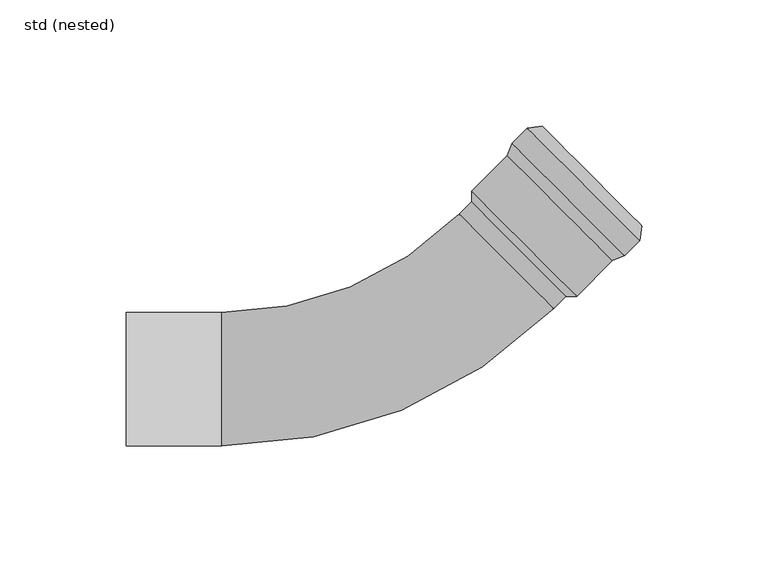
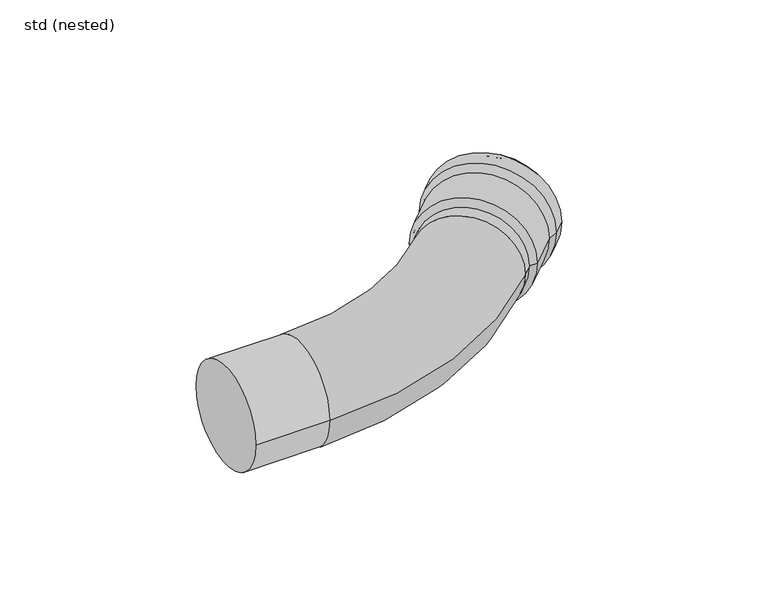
"""IFC4 building model written with IfcOpenShell, lengths in millimetres: pipe fitting geometry, ZZZ_do not use_PIF_ST_UN_GM-X pipe bend_ACO : std (nested)."""

from ifc_helpers import new_model, si_unit, point, frame, origin, place, context, project, spatial, polyline, circle_curve, ellipse_curve, trimmed, source, transform, mapped, element, save
from ifc_brep_helpers import plane_surface, cylinder_surface, revolved_surface, advanced_brep


def std_nested_ef3a1db5(model_context):
    return source(origin(), model_context, "Body", "AdvancedBrep", [
        advanced_brep(
        [(93.578192, 48.9490755, 0.0), (49.0559084, 93.5222318, 0.0), (54.9989959, 99.4585363, 0.0), (99.5212795, 54.88538, 0.0), (88.7687361, 46.9719223, 0.0), (47.0732642, 88.715037, 0.0), (60.8685061, 100.3744238, 0.0), (100.4438693, 60.7538404, 0.0), (74.6185277, 32.8378641, 0.0), (32.9230559, 74.5809788, 0.0), (70.3758878, 32.8402866, 0.0), (32.9206333, 70.3383388, 0.0), (72.498419, 34.9603953, 0.0), (35.0431646, 72.4584475, 0.0), (87.9209349, 48.2451988, 0.0), (48.3455717, 87.8657823, 0.0), (33.9831102, 73.5197131, 0.0), (73.5584734, 33.8991297, 0.0), (92.7303907, 50.222352, 0.0), (50.3282159, 92.6729771, 0.0), (98.1153924, 55.6012076, 0.0), (55.7132176, 98.0518327, 0.0), (98.9620692, 60.9867965, 0.0), (61.0997699, 98.8923587, 0.0)],
        [
            (0, 1, circle_curve(frame((71.3170502, 71.2356537, 0.0), z_axis=(0.7075104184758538, 0.706702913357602, 0.0), x_axis=(-0.7067029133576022, 0.7075104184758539, 0.0)), 31.5)),
            (1, 2),
            (2, 3, circle_curve(frame((77.2601377, 77.1719581, 0.0), z_axis=(-0.7075104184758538, -0.706702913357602, 0.0), x_axis=(-0.7067029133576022, 0.7075104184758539, 0.0)), 31.5)),
            (3, 0),
            (1, 0, circle_curve(frame((71.3170502, 71.2356537, 0.0), z_axis=(0.7075104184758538, 0.706702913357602, 0.0), x_axis=(-0.7067029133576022, 0.7075104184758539, 0.0)), 31.5)),
            (3, 2, circle_curve(frame((77.2601377, 77.1719581, 0.0), z_axis=(-0.7075104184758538, -0.706702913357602, 0.0), x_axis=(-0.7067029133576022, 0.7075104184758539, 0.0)), 31.5)),
            (4, 5, circle_curve(frame((67.9210002, 67.8434797, 0.0), z_axis=(0.7075104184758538, 0.706702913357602, 0.0), x_axis=(-0.7067029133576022, 0.7075104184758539, 0.0)), 29.5)),
            (5, 1),
            (0, 4),
            (5, 4, circle_curve(frame((67.9210002, 67.8434797, 0.0), z_axis=(0.7075104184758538, 0.706702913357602, 0.0), x_axis=(-0.7067029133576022, 0.7075104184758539, 0.0)), 29.5)),
            (2, 6),
            (6, 7, circle_curve(frame((80.6561877, 80.5641321, 0.0), z_axis=(-0.7075104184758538, -0.706702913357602, 0.0), x_axis=(-0.7067029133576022, 0.7075104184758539, 0.0)), 28.0)),
            (7, 3),
            (7, 6, circle_curve(frame((80.6561877, 80.5641321, 0.0), z_axis=(-0.7075104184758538, -0.706702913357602, 0.0), x_axis=(-0.7067029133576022, 0.7075104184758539, 0.0)), 28.0)),
            (8, 9, circle_curve(frame((53.7707918, 53.7094214, 0.0), z_axis=(0.7075104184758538, 0.706702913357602, 0.0), x_axis=(-0.7067029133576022, 0.7075104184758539, 0.0)), 29.5)),
            (9, 5),
            (4, 8),
            (9, 8, circle_curve(frame((53.7707918, 53.7094214, 0.0), z_axis=(0.7075104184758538, 0.706702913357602, 0.0), x_axis=(-0.7067029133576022, 0.7075104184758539, 0.0)), 29.5)),
            (10, 11, circle_curve(frame((51.6482605, 51.5893127, 0.0), z_axis=(0.7075104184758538, 0.706702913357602, 0.0), x_axis=(-0.7067029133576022, 0.7075104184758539, 0.0)), 26.5)),
            (11, 9),
            (8, 10),
            (11, 10, circle_curve(frame((51.6482605, 51.5893127, 0.0), z_axis=(0.7075104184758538, 0.706702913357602, 0.0), x_axis=(-0.7067029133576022, 0.7075104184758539, 0.0)), 26.5)),
            (12, 13, circle_curve(frame((53.7707918, 53.7094214, 0.0), z_axis=(0.7075104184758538, 0.706702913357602, 0.0), x_axis=(-0.7067029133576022, 0.7075104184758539, 0.0)), 26.5)),
            (13, 11),
            (10, 12),
            (13, 12, circle_curve(frame((53.7707918, 53.7094214, 0.0), z_axis=(0.7075104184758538, 0.706702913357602, 0.0), x_axis=(-0.7067029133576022, 0.7075104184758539, 0.0)), 26.5)),
            (14, 15, circle_curve(frame((68.1332533, 68.0554906, 0.0), z_axis=(0.7075104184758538, 0.706702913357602, 0.0), x_axis=(-0.7067029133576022, 0.7075104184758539, 0.0)), 28.0)),
            (15, 16),
            (16, 17, circle_curve(frame((53.7707918, 53.7094214, 0.0), z_axis=(-0.7075104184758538, -0.706702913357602, 0.0), x_axis=(-0.7067029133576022, 0.7075104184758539, 0.0)), 28.0)),
            (17, 14),
            (15, 14, circle_curve(frame((68.1332533, 68.0554906, 0.0), z_axis=(0.7075104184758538, 0.706702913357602, 0.0), x_axis=(-0.7067029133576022, 0.7075104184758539, 0.0)), 28.0)),
            (17, 16, circle_curve(frame((53.7707918, 53.7094214, 0.0), z_axis=(-0.7075104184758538, -0.706702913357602, 0.0), x_axis=(-0.7067029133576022, 0.7075104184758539, 0.0)), 28.0)),
            (18, 19, circle_curve(frame((71.5293033, 71.4476645, 0.0), z_axis=(0.7075104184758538, 0.706702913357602, 0.0), x_axis=(-0.7067029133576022, 0.7075104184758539, 0.0)), 30.0)),
            (19, 15),
            (14, 18),
            (19, 18, circle_curve(frame((71.5293033, 71.4476645, 0.0), z_axis=(0.7075104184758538, 0.706702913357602, 0.0), x_axis=(-0.7067029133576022, 0.7075104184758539, 0.0)), 30.0)),
            (20, 21, circle_curve(frame((76.914305, 76.8265201, 0.0), z_axis=(0.7075104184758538, 0.706702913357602, 0.0), x_axis=(-0.7067029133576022, 0.7075104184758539, 0.0)), 30.0)),
            (21, 19),
            (18, 20),
            (21, 20, circle_curve(frame((76.914305, 76.8265201, 0.0), z_axis=(0.7075104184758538, 0.706702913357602, 0.0), x_axis=(-0.7067029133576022, 0.7075104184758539, 0.0)), 30.0)),
            (22, 23, circle_curve(frame((80.0309195, 79.9395776, 0.0), z_axis=(0.7075104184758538, 0.706702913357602, 0.0), x_axis=(-0.7067029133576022, 0.7075104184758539, 0.0)), 26.7879887)),
            (23, 21),
            (20, 22),
            (23, 22, circle_curve(frame((80.0309195, 79.9395776, 0.0), z_axis=(0.7075104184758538, 0.706702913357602, 0.0), x_axis=(-0.7067029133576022, 0.7075104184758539, 0.0)), 26.7879887)),
            (6, 23),
            (22, 7),
            (16, 13),
            (12, 17),
        ],
        [
            cylinder_surface(frame((78.282074, 78.1927281, 0.0), z_axis=(-0.7075104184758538, -0.706702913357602, 0.0), x_axis=(-0.7067029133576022, 0.7075104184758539, 0.0)), 31.5),
            revolved_surface(polyline([(49.0559084, 93.5222318, 0.0), (47.0732642, 88.715037, 0.0)]), (78.282074, 78.1927281, 0.0), (-0.7075104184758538, -0.706702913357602, 0.0)),
            revolved_surface(polyline([(60.8685061, 100.3744238, 0.0), (54.9989959, 99.4585363, 0.0)]), (78.282074, 78.1927281, 0.0), (-0.7075104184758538, -0.706702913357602, 0.0)),
            cylinder_surface(frame((78.282074, 78.1927281, 0.0), z_axis=(-0.7075104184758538, -0.706702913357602, 0.0), x_axis=(-0.7067029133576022, 0.7075104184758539, 0.0)), 29.5),
            revolved_surface(polyline([(32.9230559, 74.5809788, 0.0), (32.9206333, 70.3383388, 0.0)]), (78.282074, 78.1927281, 0.0), (-0.7075104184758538, -0.706702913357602, 0.0)),
            revolved_surface(polyline([(32.92063331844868, 70.33833876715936, 0.0), (35.04316458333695, 72.45844751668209, 0.0)]), (78.282074, 78.1927281, 0.0), (-0.7075104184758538, -0.706702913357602, 0.0)),
            revolved_surface(polyline([(33.983110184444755, 73.51971311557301, 0.0), (48.34557173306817, 87.86578231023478, 0.0)]), (78.282074, 78.1927281, 0.0), (-0.7075104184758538, -0.706702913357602, 0.0)),
            revolved_surface(polyline([(48.3455717, 87.8657823, 0.0), (50.3282159, 92.6729771, 0.0)]), (78.282074, 78.1927281, 0.0), (-0.7075104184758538, -0.706702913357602, 0.0)),
            revolved_surface(polyline([(50.328215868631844, 92.67297708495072, 0.0), (55.713217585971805, 98.05183272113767, 0.0)]), (78.282074, 78.1927281, 0.0), (-0.7075104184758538, -0.706702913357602, 0.0)),
            revolved_surface(polyline([(55.7132176, 98.0518327, 0.0), (61.0997699, 98.8923587, 0.0)]), (78.282074, 78.1927281, 0.0), (-0.7075104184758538, -0.706702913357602, 0.0)),
            revolved_surface(polyline([(61.0997699, 98.8923587, 0.0), (60.8685061, 100.3744238, 0.0)]), (78.282074, 78.1927281, 0.0), (-0.7075104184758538, -0.706702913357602, 0.0)),
            plane_surface(frame((53.7707918, 53.7094214, 0.0), z_axis=(0.7075104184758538, 0.706702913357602, 0.0), x_axis=(-0.706702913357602, 0.7075104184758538, 0.0))),
        ],
        [
            (0, [[1, 2, 3, 4]]),
            (0, [[5, -4, 6, -2]]),
            (1, [[7, 8, -1, 9]]),
            (1, [[10, -9, -5, -8]]),
            (2, [[-3, 11, 12, 13]]),
            (2, [[-6, -13, 14, -11]]),
            (3, [[15, 16, -7, 17]]),
            (3, [[18, -17, -10, -16]]),
            (4, [[19, 20, -15, 21]]),
            (4, [[22, -21, -18, -20]]),
            (5, [[23, 24, -19, 25]]),
            (5, [[26, -25, -22, -24]]),
            (6, [[27, 28, 29, 30]]),
            (6, [[31, -30, 32, -28]]),
            (7, [[33, 34, -27, 35]]),
            (7, [[36, -35, -31, -34]]),
            (8, [[37, 38, -33, 39]]),
            (8, [[40, -39, -36, -38]]),
            (9, [[41, 42, -37, 43]]),
            (9, [[44, -43, -40, -42]]),
            (10, [[-12, 45, -41, 46]]),
            (10, [[-14, -46, -44, -45]]),
            (11, [[-29, 47, -23, 48]]),
            (11, [[-32, -48, -26, -47]]),
        ],
    ),
        advanced_brep(
        [(27.9680604, 65.3914184, 0.0), (-66.0, 26.5, 0.0), (-66.0, -26.5, 0.0), (65.4233148, 27.8933662, 0.0), (46.6956876, 46.6423923, 26.5), (46.6956876, 46.6423923, -26.5), (-104.0, -26.5, 0.0), (-104.0, 26.5, 0.0), (72.498419, 34.9603953, 0.0), (35.0431646, 72.4584475, 0.0)],
        [
            (0, 1, circle_curve(frame((-66.0, 159.4668502, 0.0), z_axis=(0.0, 0.0, -1.0), x_axis=(0.0, -1.0, 0.0)), 132.9668502)),
            (1, 2, circle_curve(frame((-66.0, 0.0, 0.0), z_axis=(1.0, 0.0, 0.0), x_axis=(0.0, 1.0, 0.0)), 26.5)),
            (2, 3, circle_curve(frame((-66.0, 159.4668502, 0.0), z_axis=(0.0, 0.0, 1.0), x_axis=(0.0, -1.0, 0.0)), 185.9668502)),
            (3, 4, circle_curve(frame((46.6956876, 46.6423923, 0.0), z_axis=(-0.7075104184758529, -0.7067029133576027, 0.0), x_axis=(-0.7067029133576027, 0.7075104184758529, 0.0)), 26.5)),
            (4, 0, circle_curve(frame((46.6956876, 46.6423923, 0.0), z_axis=(-0.7075104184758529, -0.7067029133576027, 0.0), x_axis=(-0.7067029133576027, 0.7075104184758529, 0.0)), 26.5)),
            (0, 5, circle_curve(frame((46.6956876, 46.6423923, 0.0), z_axis=(-0.7075104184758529, -0.7067029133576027, 0.0), x_axis=(-0.7067029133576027, 0.7075104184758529, 0.0)), 26.5)),
            (5, 3, circle_curve(frame((46.6956876, 46.6423923, 0.0), z_axis=(-0.707510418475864, -0.7067029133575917, 0.0), x_axis=(-0.7067029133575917, 0.707510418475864, 0.0)), 26.5)),
            (2, 1, circle_curve(frame((-66.0, 0.0, 0.0), z_axis=(1.0, 0.0, 0.0), x_axis=(0.0, 1.0, 0.0)), 26.5)),
            (6, 7, circle_curve(frame((-104.0, 0.0, 0.0), z_axis=(-1.0, 0.0, 0.0), x_axis=(0.0, 1.0, 0.0)), 26.5)),
            (7, 6, circle_curve(frame((-104.0, 0.0, 0.0), z_axis=(-1.0, 0.0, 0.0), x_axis=(0.0, 1.0, 0.0)), 26.5)),
            (7, 1),
            (2, 6),
            (8, 9, circle_curve(frame((53.7707918, 53.7094214, 0.0), z_axis=(0.7075104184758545, 0.7067029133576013, 0.0), x_axis=(-0.7067029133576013, 0.7075104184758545, 0.0)), 26.5)),
            (9, 8, circle_curve(frame((53.7707918, 53.7094214, 0.0), z_axis=(0.7075104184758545, 0.7067029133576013, 0.0), x_axis=(-0.7067029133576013, 0.7075104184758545, 0.0)), 26.5)),
            (9, 0),
            (3, 8),
        ],
        [
            revolved_surface(trimmed(ellipse_curve(frame((-66.0, 0.0, 0.0), z_axis=(-1.0, 0.0, 0.0), x_axis=(0.0, 1.0, 0.0)), 26.5, 26.5), [point((-66.0, -26.5, 0.0))], [point((-66.0, 26.5, 0.0))], True, "CARTESIAN"), (-66.0, 159.4668502, 0.0), (0.0, 0.0, 1.0)),
            revolved_surface(trimmed(ellipse_curve(frame((-66.0, 0.0, 0.0), z_axis=(-1.0, 0.0, 0.0), x_axis=(0.0, 1.0, 0.0)), 26.5, 26.5), [point((-66.0, 26.5, 0.0))], [point((-66.0, -26.5, 0.0))], True, "CARTESIAN"), (-66.0, 159.4668502, 0.0), (0.0, 0.0, 1.0)),
            plane_surface(frame((-104.0, 26.5, 0.0), z_axis=(-1.0, 0.0, 0.0), x_axis=(0.0, 0.0, -1.0))),
            cylinder_surface(frame((-104.0, 0.0, 0.0), z_axis=(1.0, 0.0, 0.0), x_axis=(0.0, 1.0, 0.0)), 26.5),
            plane_surface(frame((53.7707918, 53.7094214, 0.0), z_axis=(0.7075104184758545, 0.7067029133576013, 0.0), x_axis=(0.0, 0.0, 1.0))),
            cylinder_surface(frame((46.6956876, 46.6423923, 0.0), z_axis=(-0.7075104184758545, -0.7067029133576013, 0.0), x_axis=(-0.7067029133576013, 0.7075104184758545, 0.0)), 26.5),
        ],
        [
            (0, [[1, 2, 3, 4, 5]]),
            (1, [[-1, 6, 7, -3, 8]]),
            (2, [[9, 10]]),
            (3, [[-10, 11, -8, 12]]),
            (3, [[-9, -12, -2, -11]]),
            (4, [[13, 14]]),
            (5, [[-14, 15, -5, -4, 16]]),
            (5, [[-13, -16, -7, -6, -15]]),
        ],
    ),
    ])


if __name__ == "__main__":
    model = new_model("IFC4")
    model_context = context("Model", 3, world=origin())
    ifc_project = project(units=[si_unit("LENGTHUNIT", "METRE", prefix="MILLI")], contexts=[model_context])
    site = spatial("IfcSite", under=ifc_project)
    building = spatial("IfcBuilding", under=site)
    placement = place(None, origin())
    std_nested_shape = std_nested_ef3a1db5(model_context)
    element("IfcPipeFitting", 1, ObjectType="ZZZ_do not use_PIF_ST_UN_GM-X pipe bend_ACO : std (nested)", at=placement, inside=building, context=model_context, shape_type="MappedRepresentation", body=[
        mapped(std_nested_shape, transform((0.0, 0.0, 0.0), x_axis=(1.0, 0.0, 0.0), y_axis=(0.0, 1.0, 0.0), z_axis=(0.0, 0.0, 1.0))),
    ])
    save(model, "model.ifc")
